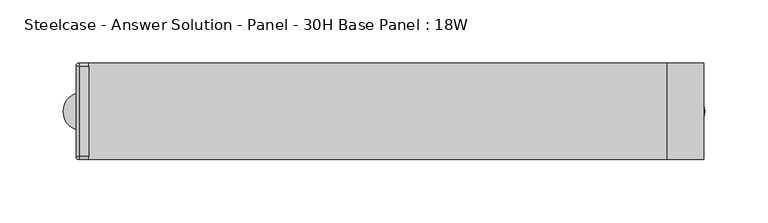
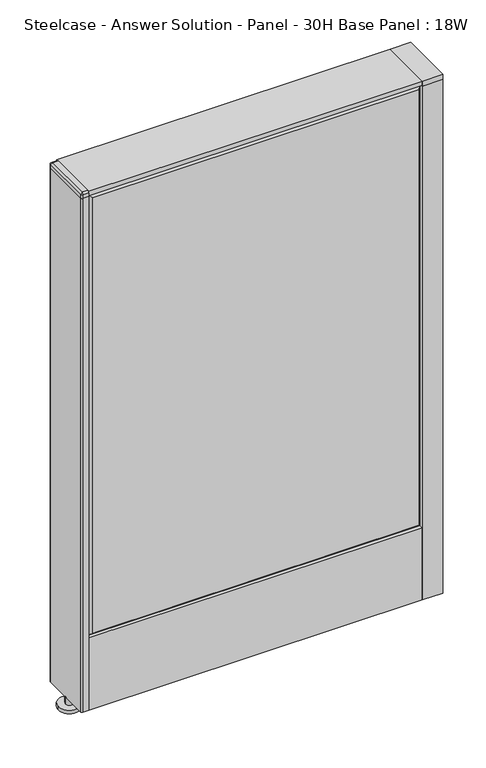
"""IFC4 building model written with IfcOpenShell, lengths in millimetres: furniture geometry, Steelcase - Answer Solution - Panel - 30H Base Panel : 18W."""

from ifc_helpers import new_model, si_unit, point, frame, frame_2d, origin, place, context, project, spatial, polyline, circle_curve, trimmed, segment, composite_curve, outline, extrude, faceted_brep, source, transform, mapped, element, save
from ifc_brep_helpers import plane_surface, spline_surface, advanced_brep


def steelcase_answer_solution_panel_30h_base_panel_18w_5109bb78(model_context):
    return source(origin(), model_context, "Body", "SolidModel", [
        extrude(outline(composite_curve([segment(trimmed(circle_curve(frame_2d((242.824, 0.0320214)), 5.08), [point((247.904, 0.0320214))], [point((237.744, 0.0320214))], False, "CARTESIAN"), True, "CONTINUOUS"), segment(trimmed(circle_curve(frame_2d((242.824, 0.0320214)), 5.08), [point((237.744, 0.0320214))], [point((247.904, 0.0320214))], False, "CARTESIAN"), True, "CONTINUOUS")], self_intersect=False)), frame((0.0, 0.0, 5.0799671), z_axis=(0.0, 0.0, 1.0), x_axis=(1.0, 0.0, 0.0)), (0.0, 0.0, 1.0), 10.414),
        extrude(outline(composite_curve([segment(trimmed(circle_curve(frame_2d((242.824, 0.0320214)), 15.24), [point((258.064, 0.0320214))], [point((227.584, 0.0320214))], False, "CARTESIAN"), True, "CONTINUOUS"), segment(trimmed(circle_curve(frame_2d((242.824, 0.0320214)), 15.24), [point((227.584, 0.0320214))], [point((258.064, 0.0320214))], False, "CARTESIAN"), True, "CONTINUOUS")], self_intersect=False)), frame((0.0, 0.0, -3.29e-05), z_axis=(0.0, 0.0, 1.0), x_axis=(1.0, 0.0, 0.0)), (0.0, 0.0, 1.0), 5.08),
        extrude(outline(polyline([(257.175, 38.1320408), (257.175, -38.0679592), (228.6, -38.0679592), (228.6, 38.1320408), (257.175, 38.1320408)])), frame((0.0, 0.0, 761.0348), z_axis=(0.0, 0.0, 1.0), x_axis=(1.0, 0.0, 0.0)), (0.0, 0.0, 1.0), 7.3151671),
        extrude(outline(polyline([(257.175, 38.1320408), (257.175, -38.0679592), (228.6, -38.0679592), (228.6, 38.1320408), (257.175, 38.1320408)])), frame((0.0, 0.0, 15.4939671), z_axis=(0.0, 0.0, 1.0), x_axis=(1.0, 0.0, 0.0)), (0.0, 0.0, 1.0), 745.5408329),
        extrude(outline(composite_curve([segment(trimmed(circle_curve(frame_2d((-233.68, -0.0320214)), 5.08), [point((-238.76, -0.0320214))], [point((-228.6, -0.0320214))], False, "CARTESIAN"), True, "CONTINUOUS"), segment(trimmed(circle_curve(frame_2d((-233.68, -0.0320214)), 5.08), [point((-228.6, -0.0320214))], [point((-238.76, -0.0320214))], False, "CARTESIAN"), True, "CONTINUOUS")], self_intersect=False)), frame((0.0, 0.0, 5.0799671), z_axis=(0.0, 0.0, 1.0), x_axis=(1.0, 0.0, 0.0)), (0.0, 0.0, 1.0), 10.414),
        extrude(outline(composite_curve([segment(trimmed(circle_curve(frame_2d((-233.68, -0.0320214)), 15.24), [point((-248.92, -0.0320214))], [point((-218.44, -0.0320214))], False, "CARTESIAN"), True, "CONTINUOUS"), segment(trimmed(circle_curve(frame_2d((-233.68, -0.0320214)), 15.24), [point((-218.44, -0.0320214))], [point((-248.92, -0.0320214))], False, "CARTESIAN"), True, "CONTINUOUS")], self_intersect=False)), frame((0.0, 0.0, -3.29e-05), z_axis=(0.0, 0.0, 1.0), x_axis=(1.0, 0.0, 0.0)), (0.0, 0.0, 1.0), 5.08),
        advanced_brep(
        [(-235.9406, 35.2485592, 768.3499671), (-235.9406, -35.3126408, 768.3499671), (-228.6, -35.3126408, 768.3499671), (-228.6, 35.2485592, 768.3499671), (-236.8151197, 38.0679592, 766.4704), (-238.76, 36.1230789, 766.4704), (-238.76, -36.2403105, 766.4704), (-236.8682696, -38.1320408, 766.4704), (-228.6, -38.1320408, 766.4704), (-228.6, 38.0679592, 766.4704)],
        [
            (0, 1),
            (1, 2),
            (2, 3),
            (3, 0),
            (4, 5, circle_curve(frame((-236.8151197, 36.1230789, 766.4704), z_axis=(0.0, 0.0, 1.0), x_axis=(0.0, -1.0, 0.0)), 1.9448803)),
            (5, 0),
            (0, 4),
            (5, 6),
            (6, 1),
            (6, 7, circle_curve(frame((-236.8682696, -36.2403105, 766.4704), z_axis=(0.0, 0.0, 1.0), x_axis=(0.0, -1.0, 0.0)), 1.8917304)),
            (7, 1),
            (7, 8),
            (8, 2),
            (8, 9),
            (9, 3),
            (9, 4),
        ],
        [
            plane_surface(frame((-232.2703, -0.0320408, 768.3499671), z_axis=(0.0, 0.0, 1.0), x_axis=(0.0, -1.0, 0.0))),
            spline_surface(2, 1, [[(-236.8151197, 38.0679592, 766.4704), (-235.9406, 35.2485592, 768.3499671)], [(-238.76, 38.0679592, 766.4704), (-235.9406, 35.2485592, 768.3499671)], [(-238.76, 36.1230789, 766.4704), (-235.9406, 35.2485592, 768.3499671)]], [3, 3], [2, 2], [0.0, 1.0], [0.0, 1.0], weights=[[1.0, 1.0], [0.7071067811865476, 0.7071067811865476], [1.0, 1.0]]),
            plane_surface(frame((-238.76, -0.0586158, 766.4704), z_axis=(-0.554693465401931, 0.0, 0.832054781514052), x_axis=(0.0, -1.0, 0.0))),
            spline_surface(2, 1, [[(-238.76, -36.2403105, 766.4704), (-235.9406, -35.3126408, 768.3499671)], [(-238.76000009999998, -38.1320409, 766.4704), (-235.9406, -35.3126408, 768.3499671)], [(-236.8682696, -38.1320408, 766.4704), (-235.9406, -35.3126408, 768.3499671)]], [3, 3], [2, 2], [0.0, 1.0], [0.0, 1.0], weights=[[1.0, 1.0], [0.7071067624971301, 0.7071067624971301], [1.0, 1.0]]),
            plane_surface(frame((-232.7341348, -38.1320408, 766.4704), z_axis=(0.0, -0.5546934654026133, 0.8320547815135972), x_axis=(1.0, 0.0, 0.0))),
            plane_surface(frame((-228.6, -0.0320408, 766.4704), z_axis=(1.0, 0.0, 0.0), x_axis=(0.0, 1.0, 0.0))),
            plane_surface(frame((-232.7075599, 38.0679592, 766.4704), z_axis=(0.0, 0.5546934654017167, 0.8320547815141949), x_axis=(-1.0, 0.0, 0.0))),
            plane_surface(frame((-234.7338982, -0.0408991, 766.4704), z_axis=(0.0, 0.0, -1.0), x_axis=(0.0, -1.0, 0.0))),
        ],
        [
            (0, [[1, 2, 3, 4]]),
            (1, [[5, 6, 7]]),
            (2, [[8, 9, -1, -6]]),
            (3, [[10, 11, -9]]),
            (4, [[12, 13, -2, -11]]),
            (5, [[14, 15, -3, -13]]),
            (6, [[16, -7, -4, -15]]),
            (7, [[-16, -14, -12, -10, -8, -5]]),
        ],
    ),
        extrude(outline(composite_curve([segment(polyline([(-238.76, -36.2403105), (-238.76, 36.1230789)]), True, "CONTINUOUS"), segment(trimmed(circle_curve(frame_2d((-236.8151197, 36.1230789)), 1.9448803), [point((-238.76, 36.1230789))], [point((-236.8151197, 38.0679592))], False, "CARTESIAN"), True, "CONTINUOUS"), segment(polyline([(-236.8151197, 38.0679592), (-228.6, 38.0679592), (-228.6, -38.1320408), (-236.8682696, -38.1320408)]), True, "CONTINUOUS"), segment(trimmed(circle_curve(frame_2d((-236.8682696, -36.2403105)), 1.8917304), [point((-236.8682696, -38.1320408))], [point((-238.76, -36.2403105))], False, "CARTESIAN"), True, "CONTINUOUS")], self_intersect=False)), frame((0.0, 0.0, 761.0348), z_axis=(0.0, 0.0, 1.0), x_axis=(1.0, 0.0, 0.0)), (0.0, 0.0, 1.0), 5.4356),
        extrude(outline(composite_curve([segment(polyline([(-238.76, -36.2599466), (-238.76, 36.1273143)]), True, "CONTINUOUS"), segment(trimmed(circle_curve(frame_2d((-236.8193552, 36.1273143)), 1.9406448), [point((-238.76, 36.1273143))], [point((-236.8193552, 38.0679592))], False, "CARTESIAN"), True, "CONTINUOUS"), segment(polyline([(-236.8193552, 38.0679592), (-228.6, 38.0679592), (-228.6, -38.1320408), (-236.8879058, -38.1320408)]), True, "CONTINUOUS"), segment(trimmed(circle_curve(frame_2d((-236.8879058, -36.2599466)), 1.8720942), [point((-236.8879058, -38.1320408))], [point((-238.76, -36.2599466))], False, "CARTESIAN"), True, "CONTINUOUS")], self_intersect=False)), frame((0.0, 0.0, 15.4939671), z_axis=(0.0, 0.0, 1.0), x_axis=(1.0, 0.0, 0.0)), (0.0, 0.0, 1.0), 745.5408329),
        faceted_brep([(223.774, 38.1635011, 757.174), (223.774, 38.1635011, 125.476), (-223.774, 38.1635011, 125.476), (-223.774, 38.1635011, 757.174), (228.6, 33.3375011, 762.0), (-228.6, 33.3375011, 762.0), (-228.6, 33.3375011, 120.65), (228.6, 33.3375011, 120.65)], [[[0, 1, 2, 3]], [[4, 5, 6, 7]], [[4, 0, 3, 5]], [[5, 3, 2, 6]], [[6, 2, 1, 7]], [[7, 1, 0, 4]]]),
        faceted_brep([(223.774, -38.1635011, 757.174), (-223.774, -38.1635011, 757.174), (-223.774, -38.1635011, 125.476), (223.774, -38.1635011, 125.476), (228.6, -33.3375011, 762.0), (228.6, -33.3375011, 120.65), (-228.6, -33.3375011, 120.65), (-228.6, -33.3375011, 762.0)], [[[0, 1, 2, 3]], [[4, 5, 6, 7]], [[4, 7, 1, 0]], [[7, 6, 2, 1]], [[6, 5, 3, 2]], [[5, 4, 0, 3]]]),
        extrude(outline(polyline([(228.6, 38.1000194), (228.6, -38.1000194), (-228.6, -38.1000194), (-228.6, 38.1000194), (228.6, 38.1000194)])), frame((0.0, 0.0, 762.0), z_axis=(0.0, 0.0, 1.0), x_axis=(1.0, 0.0, 0.0)), (0.0, 0.0, 1.0), 6.35),
        extrude(outline(polyline([(37.3075215, 119.8575157), (25.4000011, 119.8575157), (25.4000011, 120.65), (38.1000194, 120.65), (38.1000194, 15.494), (37.3075215, 15.494), (37.3075215, 119.8575157)])), frame((-228.6, 0.0, 0.0), z_axis=(1.0, 0.0, 0.0), x_axis=(0.0, 1.0, 0.0)), (0.0, 0.0, 1.0), 457.2),
        extrude(outline(polyline([(-37.3075215, 119.8575157), (-37.3075215, 15.494), (-38.1000194, 15.494), (-38.1000194, 120.65), (-25.4000011, 120.65), (-25.4000011, 119.8575157), (-37.3075215, 119.8575157)])), frame((-228.6, 0.0, 0.0), z_axis=(1.0, 0.0, 0.0), x_axis=(0.0, 1.0, 0.0)), (0.0, 0.0, 1.0), 457.2),
    ])


if __name__ == "__main__":
    model = new_model("IFC4")
    model_context = context("Model", 3, world=origin())
    ifc_project = project(units=[si_unit("LENGTHUNIT", "METRE", prefix="MILLI")], contexts=[model_context])
    site = spatial("IfcSite", under=ifc_project)
    building = spatial("IfcBuilding", under=site)
    placement = place(None, origin())
    steelcase_answer_solution_panel_30h_base_panel_18w_shape = steelcase_answer_solution_panel_30h_base_panel_18w_5109bb78(model_context)
    element("IfcFurniture", 1, ObjectType="Steelcase - Answer Solution - Panel - 30H Base Panel : 18W", at=placement, inside=building, context=model_context, shape_type="MappedRepresentation", body=[
        mapped(steelcase_answer_solution_panel_30h_base_panel_18w_shape, transform((0.0, 0.0, 0.0), x_axis=(1.0, 0.0, 0.0), y_axis=(0.0, 1.0, 0.0), z_axis=(0.0, 0.0, 1.0))),
    ])
    save(model, "model.ifc")
